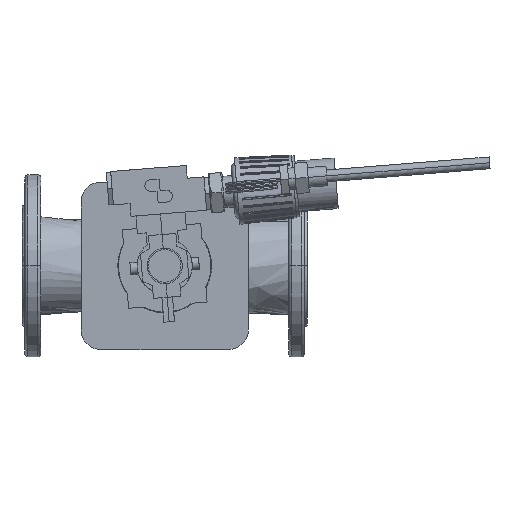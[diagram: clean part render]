
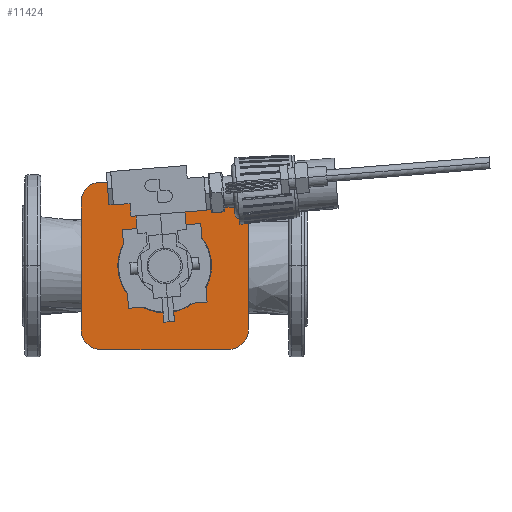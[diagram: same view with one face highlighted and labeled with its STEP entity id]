
A CAD part, front view. The second image highlights one B-rep face of the part: STEP entity #11424.
In plain terms, the highlighted planar face has unit normal (0, -1, 0).
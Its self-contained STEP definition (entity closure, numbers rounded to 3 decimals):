
#2633 = ORIENTED_EDGE ( 'NONE', *, *, #6268, .F. ) ;
#3749 = VERTEX_POINT ( 'NONE', #16376 ) ;
#3751 = EDGE_CURVE ( 'NONE', #3752, #3749, #16375, .T. ) ;
#3752 = VERTEX_POINT ( 'NONE', #16370 ) ;
#4123 = VERTEX_POINT ( 'NONE', #6498 ) ;
#6268 = EDGE_CURVE ( 'NONE', #13055, #4123, #17309, .T. ) ;
#6498 = CARTESIAN_POINT ( 'NONE',  ( -66.259, 625.146, -65. ) ) ;
#7380 = EDGE_CURVE ( 'NONE', #4123, #9769, #17304, .T. ) ;
#7862 = EDGE_CURVE ( 'NONE', #3749, #3752, #17353, .T. ) ;
#9560 = ORIENTED_EDGE ( 'NONE', *, *, #7380, .F. ) ;
#9677 = ORIENTED_EDGE ( 'NONE', *, *, #9810, .F. ) ;
#9769 = VERTEX_POINT ( 'NONE', #17505 ) ;
#9810 = EDGE_CURVE ( 'NONE', #9769, #12176, #17569, .T. ) ;
#10420 = EDGE_CURVE ( 'NONE', #12178, #12018, #17565, .T. ) ;
#10921 = EDGE_CURVE ( 'NONE', #11084, #12178, #17550, .T. ) ;
#11082 = ORIENTED_EDGE ( 'NONE', *, *, #10921, .F. ) ;
#11084 = VERTEX_POINT ( 'NONE', #17545 ) ;
#11233 = EDGE_LOOP ( 'NONE', ( #11234, #11082, #12608, #12430, #9677, #9560, #2633, #12935 ) ) ;
#11234 = ORIENTED_EDGE ( 'NONE', *, *, #10420, .F. ) ;
#11424 = ADVANCED_FACE ( 'NONE', ( #17544, #17543 ), #17541, .F. ) ;
#12018 = VERTEX_POINT ( 'NONE', #17596 ) ;
#12176 = VERTEX_POINT ( 'NONE', #17595 ) ;
#12178 = VERTEX_POINT ( 'NONE', #17594 ) ;
#12428 = VERTEX_POINT ( 'NONE', #17589 ) ;
#12430 = ORIENTED_EDGE ( 'NONE', *, *, #12458, .F. ) ;
#12458 = EDGE_CURVE ( 'NONE', #12176, #12428, #17588, .T. ) ;
#12608 = ORIENTED_EDGE ( 'NONE', *, *, #12609, .F. ) ;
#12609 = EDGE_CURVE ( 'NONE', #12428, #11084, #17584, .T. ) ;
#12625 = EDGE_LOOP ( 'NONE', ( #12627, #12628 ) ) ;
#12627 = ORIENTED_EDGE ( 'NONE', *, *, #3751, .T. ) ;
#12628 = ORIENTED_EDGE ( 'NONE', *, *, #7862, .T. ) ;
#12935 = ORIENTED_EDGE ( 'NONE', *, *, #13056, .F. ) ;
#13055 = VERTEX_POINT ( 'NONE', #17578 ) ;
#13056 = EDGE_CURVE ( 'NONE', #12018, #13055, #17577, .T. ) ;
#16370 = CARTESIAN_POINT ( 'NONE',  ( 18.741, 625.146, -47.65 ) ) ;
#16371 = DIRECTION ( 'NONE',  ( 0., 0., 1. ) ) ;
#16372 = DIRECTION ( 'NONE',  ( 0., 1., 0. ) ) ;
#16373 = CARTESIAN_POINT ( 'NONE',  ( 18.741, 625.146, 0. ) ) ;
#16374 = AXIS2_PLACEMENT_3D ( 'NONE', #16373, #16372, #16371 ) ;
#16375 = CIRCLE ( 'NONE', #16374, 47.65 ) ;
#16376 = CARTESIAN_POINT ( 'NONE',  ( 18.741, 625.146, 47.65 ) ) ;
#17301 = DIRECTION ( 'NONE',  ( 0., 0., 1. ) ) ;
#17302 = VECTOR ( 'NONE', #17301, 1000. ) ;
#17303 = CARTESIAN_POINT ( 'NONE',  ( -66.259, 625.146, -65. ) ) ;
#17304 = LINE ( 'NONE', #17303, #17302 ) ;
#17305 = DIRECTION ( 'NONE',  ( 0., 0., 1. ) ) ;
#17306 = DIRECTION ( 'NONE',  ( 0., 1., 0. ) ) ;
#17307 = CARTESIAN_POINT ( 'NONE',  ( -46.259, 625.146, -65. ) ) ;
#17308 = AXIS2_PLACEMENT_3D ( 'NONE', #17307, #17306, #17305 ) ;
#17309 = CIRCLE ( 'NONE', #17308, 20. ) ;
#17349 = DIRECTION ( 'NONE',  ( 0., 0., 1. ) ) ;
#17350 = DIRECTION ( 'NONE',  ( 0., 1., 0. ) ) ;
#17351 = CARTESIAN_POINT ( 'NONE',  ( 18.741, 625.146, 0. ) ) ;
#17352 = AXIS2_PLACEMENT_3D ( 'NONE', #17351, #17350, #17349 ) ;
#17353 = CIRCLE ( 'NONE', #17352, 47.65 ) ;
#17504 = CARTESIAN_POINT ( 'NONE',  ( -46.259, 625.146, 65. ) ) ;
#17505 = CARTESIAN_POINT ( 'NONE',  ( -66.259, 625.146, 65. ) ) ;
#17538 = DIRECTION ( 'NONE',  ( 0., 1., 0. ) ) ;
#17539 = CARTESIAN_POINT ( 'NONE',  ( 83.741, 625.146, -65. ) ) ;
#17540 = AXIS2_PLACEMENT_3D ( 'NONE', #17539, #17538, #17600 ) ;
#17541 = PLANE ( 'NONE',  #17540 ) ;
#17543 = FACE_BOUND ( 'NONE', #12625, .T. ) ;
#17544 = FACE_OUTER_BOUND ( 'NONE', #11233, .T. ) ;
#17545 = CARTESIAN_POINT ( 'NONE',  ( 103.741, 625.146, 65. ) ) ;
#17546 = DIRECTION ( 'NONE',  ( 0., 0., -1. ) ) ;
#17547 = VECTOR ( 'NONE', #17546, 1000. ) ;
#17548 = CARTESIAN_POINT ( 'NONE',  ( 103.741, 625.146, -65. ) ) ;
#17550 = LINE ( 'NONE', #17548, #17547 ) ;
#17562 = DIRECTION ( 'NONE',  ( 0., 0., 1. ) ) ;
#17563 = DIRECTION ( 'NONE',  ( 0., 1., 0. ) ) ;
#17564 = AXIS2_PLACEMENT_3D ( 'NONE', #17570, #17563, #17562 ) ;
#17565 = CIRCLE ( 'NONE', #17564, 20. ) ;
#17566 = DIRECTION ( 'NONE',  ( 0., 0., 1. ) ) ;
#17567 = DIRECTION ( 'NONE',  ( 0., 1., 0. ) ) ;
#17568 = AXIS2_PLACEMENT_3D ( 'NONE', #17504, #17567, #17566 ) ;
#17569 = CIRCLE ( 'NONE', #17568, 20. ) ;
#17570 = CARTESIAN_POINT ( 'NONE',  ( 83.741, 625.146, -65. ) ) ;
#17574 = DIRECTION ( 'NONE',  ( -1., 0., 0. ) ) ;
#17575 = VECTOR ( 'NONE', #17574, 1000. ) ;
#17576 = CARTESIAN_POINT ( 'NONE',  ( -46.259, 625.146, -85. ) ) ;
#17577 = LINE ( 'NONE', #17576, #17575 ) ;
#17578 = CARTESIAN_POINT ( 'NONE',  ( -46.259, 625.146, -85. ) ) ;
#17580 = DIRECTION ( 'NONE',  ( 0., 0., 1. ) ) ;
#17581 = DIRECTION ( 'NONE',  ( 0., 1., 0. ) ) ;
#17582 = CARTESIAN_POINT ( 'NONE',  ( 83.741, 625.146, 65. ) ) ;
#17583 = AXIS2_PLACEMENT_3D ( 'NONE', #17582, #17581, #17580 ) ;
#17584 = CIRCLE ( 'NONE', #17583, 20. ) ;
#17585 = DIRECTION ( 'NONE',  ( 1., 0., 0. ) ) ;
#17586 = VECTOR ( 'NONE', #17585, 1000. ) ;
#17587 = CARTESIAN_POINT ( 'NONE',  ( -46.259, 625.146, 85. ) ) ;
#17588 = LINE ( 'NONE', #17587, #17586 ) ;
#17589 = CARTESIAN_POINT ( 'NONE',  ( 83.741, 625.146, 85. ) ) ;
#17594 = CARTESIAN_POINT ( 'NONE',  ( 103.741, 625.146, -65. ) ) ;
#17595 = CARTESIAN_POINT ( 'NONE',  ( -46.259, 625.146, 85. ) ) ;
#17596 = CARTESIAN_POINT ( 'NONE',  ( 83.741, 625.146, -85. ) ) ;
#17600 = DIRECTION ( 'NONE',  ( 0., 0., 1. ) ) ;
